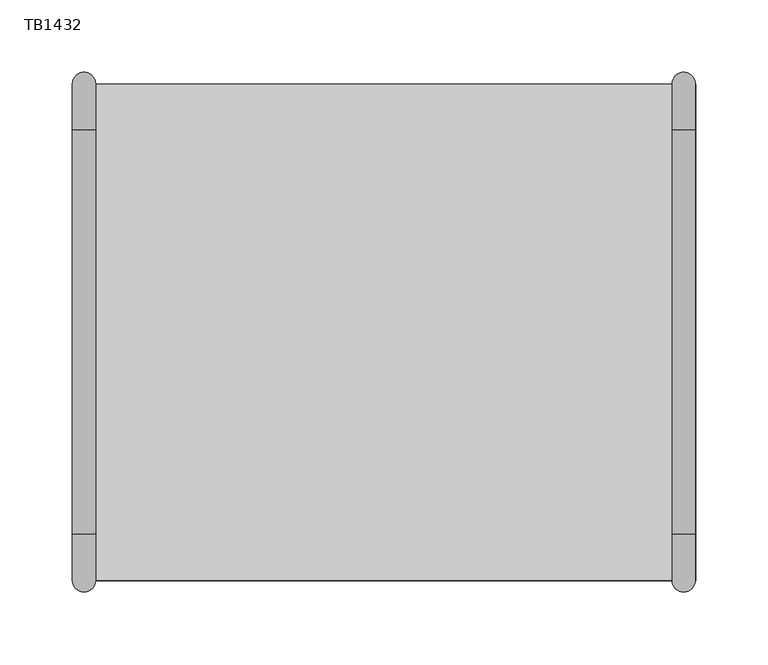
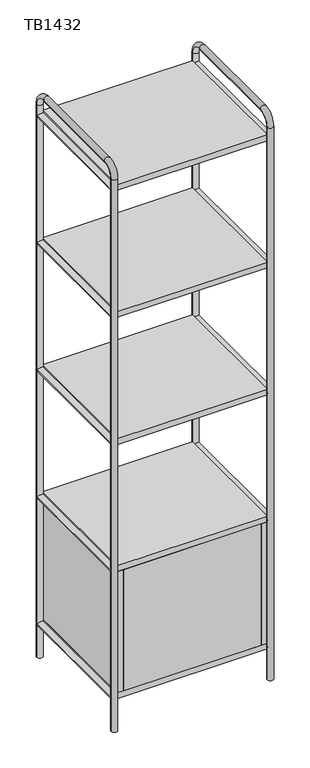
"""IFC4 building model written with IfcOpenShell, lengths in millimetres: furniture geometry, Tubbe Bookcase_4x1 : TB1432."""

from ifc_helpers import new_model, si_unit, point, frame, frame_2d, origin, place, context, project, spatial, polyline, circle_curve, ellipse_curve, trimmed, segment, composite_curve, outline, extrude, source, transform, mapped, element, save
from ifc_brep_helpers import plane_surface, cylinder_surface, revolved_surface, advanced_brep


def tb1432_73eb9000(model_context):
    return source(origin(), model_context, "Body", "SolidModel", [
        advanced_brep(
        [(-215.2205547, 171.5, 0.0), (-199.2205547, 171.5, 0.0), (-215.2205547, 171.5, 1548.0), (-199.2205547, 171.5, 1548.0), (-199.2205547, 139.5, 1580.0), (-215.2205547, 139.5, 1580.0), (-215.2205547, -139.5, 1580.0), (-199.2205547, -139.5, 1580.0), (-199.2205547, -171.5, 1548.0), (-215.2205547, -171.5, 1548.0), (-215.2205547, -171.5, 0.0), (-199.2205547, -171.5, 0.0)],
        [
            (0, 1, circle_curve(frame((-207.2205547, 171.5, 0.0), z_axis=(0.0, 0.0, -1.0), x_axis=(1.0, 0.0, 0.0)), 8.0)),
            (1, 0, circle_curve(frame((-207.2205547, 171.5, 0.0), z_axis=(0.0, 0.0, -1.0), x_axis=(1.0, 0.0, 0.0)), 8.0)),
            (0, 2),
            (2, 3, circle_curve(frame((-207.2205547, 171.5, 1548.0), z_axis=(0.0, 0.0, -1.0), x_axis=(1.0, 0.0, 0.0)), 8.0)),
            (3, 1),
            (3, 2, circle_curve(frame((-207.2205547, 171.5, 1548.0), z_axis=(0.0, 0.0, -1.0), x_axis=(1.0, 0.0, 0.0)), 8.0)),
            (4, 5, circle_curve(frame((-207.2205547, 139.5, 1580.0), z_axis=(0.0, -1.0, 0.0), x_axis=(1.0, 0.0, 0.0)), 8.0)),
            (5, 6),
            (6, 7, circle_curve(frame((-207.2205547, -139.5, 1580.0), z_axis=(0.0, 1.0, 0.0), x_axis=(1.0, 0.0, 0.0)), 8.0)),
            (7, 4),
            (5, 4, circle_curve(frame((-207.2205547, 139.5, 1580.0), z_axis=(0.0, -1.0, 0.0), x_axis=(1.0, 0.0, 0.0)), 8.0)),
            (7, 6, circle_curve(frame((-207.2205547, -139.5, 1580.0), z_axis=(0.0, 1.0, 0.0), x_axis=(1.0, 0.0, 0.0)), 8.0)),
            (8, 7, circle_curve(frame((-199.2205547, -139.5, 1548.0), z_axis=(-1.0, 0.0, 0.0), x_axis=(0.0, 0.0, 1.0)), 32.0)),
            (6, 9, circle_curve(frame((-215.2205547, -139.5, 1548.0), z_axis=(1.0, 0.0, 0.0), x_axis=(0.0, 0.0, 1.0)), 32.0)),
            (9, 8, circle_curve(frame((-207.2205547, -171.5, 1548.0), z_axis=(0.0, 0.0, 1.0), x_axis=(1.0, 0.0, 0.0)), 8.0)),
            (8, 9, circle_curve(frame((-207.2205547, -171.5, 1548.0), z_axis=(0.0, 0.0, 1.0), x_axis=(1.0, 0.0, 0.0)), 8.0)),
            (10, 11, circle_curve(frame((-207.2205547, -171.5, 0.0), z_axis=(0.0, 0.0, -1.0), x_axis=(1.0, 0.0, 0.0)), 8.0)),
            (11, 10, circle_curve(frame((-207.2205547, -171.5, 0.0), z_axis=(0.0, 0.0, -1.0), x_axis=(1.0, 0.0, 0.0)), 8.0)),
            (9, 10),
            (11, 8),
            (4, 3, circle_curve(frame((-199.2205547, 139.5, 1548.0), z_axis=(-1.0, 0.0, 0.0), x_axis=(0.0, 1.0, 0.0)), 32.0)),
            (2, 5, circle_curve(frame((-215.2205547, 139.5, 1548.0), z_axis=(1.0, 0.0, 0.0), x_axis=(0.0, 1.0, 0.0)), 32.0)),
        ],
        [
            plane_surface(frame((-207.0, 171.5, 0.0), z_axis=(0.0, 0.0, -1.0), x_axis=(1.0, 0.0, 0.0))),
            cylinder_surface(frame((-207.2205547, 171.5, 0.0), z_axis=(0.0, 0.0, -1.0), x_axis=(1.0, 0.0, 0.0)), 8.0),
            cylinder_surface(frame((-207.2205547, 139.5, 1580.0), z_axis=(0.0, 1.0, 0.0), x_axis=(1.0, 0.0, 0.0)), 8.0),
            revolved_surface(trimmed(ellipse_curve(frame((-207.2205547, -139.5, 1580.0), z_axis=(0.0, 1.0, 0.0), x_axis=(1.0, 0.0, 0.0)), 8.0, 8.0), [point((-215.2205547, -139.5, 1580.0))], [point((-199.2205547, -139.5, 1580.0))], True, "CARTESIAN"), (-207.0, -139.5, 1548.0), (1.0, 0.0, 0.0)),
            revolved_surface(trimmed(ellipse_curve(frame((-207.2205547, -139.5, 1580.0), z_axis=(0.0, 1.0, 0.0), x_axis=(1.0, 0.0, 0.0)), 8.0, 8.0), [point((-199.2205547, -139.5, 1580.0))], [point((-215.2205547, -139.5, 1580.0))], True, "CARTESIAN"), (-207.0, -139.5, 1548.0), (1.0, 0.0, 0.0)),
            plane_surface(frame((-207.0, -171.5, 0.0), z_axis=(0.0, 0.0, -1.0), x_axis=(1.0, 0.0, 0.0))),
            cylinder_surface(frame((-207.2205547, -171.5, 1548.0), z_axis=(0.0, 0.0, 1.0), x_axis=(1.0, 0.0, 0.0)), 8.0),
            revolved_surface(trimmed(ellipse_curve(frame((-207.2205547, 171.5, 1548.0), z_axis=(0.0, 0.0, -1.0), x_axis=(1.0, 0.0, 0.0)), 8.0, 8.0), [point((-215.2205547, 171.5, 1548.0))], [point((-199.2205547, 171.5, 1548.0))], True, "CARTESIAN"), (-207.0, 139.5, 1548.0), (1.0, 0.0, 0.0)),
            revolved_surface(trimmed(ellipse_curve(frame((-207.2205547, 171.5, 1548.0), z_axis=(0.0, 0.0, -1.0), x_axis=(1.0, 0.0, 0.0)), 8.0, 8.0), [point((-199.2205547, 171.5, 1548.0))], [point((-215.2205547, 171.5, 1548.0))], True, "CARTESIAN"), (-207.0, 139.5, 1548.0), (1.0, 0.0, 0.0)),
        ],
        [
            (0, [[1, 2]]),
            (1, [[-1, 3, 4, 5]]),
            (1, [[-2, -5, 6, -3]]),
            (2, [[7, 8, 9, 10]]),
            (2, [[11, -10, 12, -8]]),
            (3, [[13, -9, 14, 15]]),
            (4, [[-14, -12, -13, 16]]),
            (5, [[17, 18]]),
            (6, [[-15, 19, -18, 20]]),
            (6, [[-16, -20, -17, -19]]),
            (7, [[21, -4, 22, -7]]),
            (8, [[-22, -6, -21, -11]]),
        ],
    ),
        extrude(outline(composite_curve([segment(trimmed(circle_curve(frame_2d((806.0, -207.0)), 8.0), [point((806.0, -215.0))], [point((806.0, -199.0))], False, "CARTESIAN"), True, "CONTINUOUS"), segment(trimmed(circle_curve(frame_2d((806.0, -207.0)), 8.0), [point((806.0, -199.0))], [point((806.0, -215.0))], False, "CARTESIAN"), True, "CONTINUOUS")], self_intersect=False)), frame((0.0, -171.5, 0.0), z_axis=(0.0, 1.0, 0.0), x_axis=(0.0, 0.0, 1.0)), (0.0, 0.0, 1.0), 343.0),
        extrude(outline(composite_curve([segment(trimmed(circle_curve(frame_2d((450.0, -207.0)), 8.0), [point((450.0, -215.0))], [point((450.0, -199.0))], False, "CARTESIAN"), True, "CONTINUOUS"), segment(trimmed(circle_curve(frame_2d((450.0, -207.0)), 8.0), [point((450.0, -199.0))], [point((450.0, -215.0))], False, "CARTESIAN"), True, "CONTINUOUS")], self_intersect=False)), frame((0.0, -171.5, 0.0), z_axis=(0.0, 1.0, 0.0), x_axis=(0.0, 0.0, 1.0)), (0.0, 0.0, 1.0), 343.0),
        extrude(outline(composite_curve([segment(trimmed(circle_curve(frame_2d((94.0, -207.0)), 8.0), [point((94.0, -215.0))], [point((94.0, -199.0))], False, "CARTESIAN"), True, "CONTINUOUS"), segment(trimmed(circle_curve(frame_2d((94.0, -207.0)), 8.0), [point((94.0, -199.0))], [point((94.0, -215.0))], False, "CARTESIAN"), True, "CONTINUOUS")], self_intersect=False)), frame((0.0, -171.5, 0.0), z_axis=(0.0, 1.0, 0.0), x_axis=(0.0, 0.0, 1.0)), (0.0, 0.0, 1.0), 343.0),
        extrude(outline(composite_curve([segment(trimmed(circle_curve(frame_2d((1518.0, -207.0)), 8.0), [point((1518.0, -215.0))], [point((1518.0, -199.0))], False, "CARTESIAN"), True, "CONTINUOUS"), segment(trimmed(circle_curve(frame_2d((1518.0, -207.0)), 8.0), [point((1518.0, -199.0))], [point((1518.0, -215.0))], False, "CARTESIAN"), True, "CONTINUOUS")], self_intersect=False)), frame((0.0, -171.5, 0.0), z_axis=(0.0, 1.0, 0.0), x_axis=(0.0, 0.0, 1.0)), (0.0, 0.0, 1.0), 343.0),
        extrude(outline(composite_curve([segment(trimmed(circle_curve(frame_2d((1162.0, -207.0)), 8.0), [point((1162.0, -215.0))], [point((1162.0, -199.0))], False, "CARTESIAN"), True, "CONTINUOUS"), segment(trimmed(circle_curve(frame_2d((1162.0, -207.0)), 8.0), [point((1162.0, -199.0))], [point((1162.0, -215.0))], False, "CARTESIAN"), True, "CONTINUOUS")], self_intersect=False)), frame((0.0, -171.5, 0.0), z_axis=(0.0, 1.0, 0.0), x_axis=(0.0, 0.0, 1.0)), (0.0, 0.0, 1.0), 343.0),
        extrude(outline(polyline([(183.0, -171.5), (-183.0, -171.5), (-183.0, -155.5), (183.0, -155.5), (183.0, -171.5)])), frame((0.0, 0.0, 102.0), z_axis=(0.0, 0.0, 1.0), x_axis=(1.0, 0.0, 0.0)), (0.0, 0.0, 1.0), 340.0),
        extrude(outline(polyline([(183.0, 155.5), (-183.0, 155.5), (-183.0, 171.5), (183.0, 171.5), (183.0, 155.5)])), frame((0.0, 0.0, 102.0), z_axis=(0.0, 0.0, 1.0), x_axis=(1.0, 0.0, 0.0)), (0.0, 0.0, 1.0), 340.0),
        extrude(outline(polyline([(199.0, 171.5), (199.0, -171.5), (183.0, -171.5), (183.0, 171.5), (199.0, 171.5)])), frame((0.0, 0.0, 102.0), z_axis=(0.0, 0.0, 1.0), x_axis=(1.0, 0.0, 0.0)), (0.0, 0.0, 1.0), 340.0),
        extrude(outline(polyline([(-183.0, 171.5), (-183.0, -171.5), (-199.0, -171.5), (-199.0, 171.5), (-183.0, 171.5)])), frame((0.0, 0.0, 102.0), z_axis=(0.0, 0.0, 1.0), x_axis=(1.0, 0.0, 0.0)), (0.0, 0.0, 1.0), 340.0),
        extrude(outline(polyline([(199.0, 171.5), (199.0, -171.5), (-199.0, -171.5), (-199.0, 171.5), (199.0, 171.5)])), frame((0.0, 0.0, 1510.0), z_axis=(0.0, 0.0, 1.0), x_axis=(1.0, 0.0, 0.0)), (0.0, 0.0, 1.0), 16.0),
        extrude(outline(polyline([(199.0, 171.5), (199.0, -171.5), (-199.0, -171.5), (-199.0, 171.5), (199.0, 171.5)])), frame((0.0, 0.0, 1154.0), z_axis=(0.0, 0.0, 1.0), x_axis=(1.0, 0.0, 0.0)), (0.0, 0.0, 1.0), 16.0),
        extrude(outline(polyline([(199.0, 171.5), (199.0, -171.5), (-199.0, -171.5), (-199.0, 171.5), (199.0, 171.5)])), frame((0.0, 0.0, 798.0), z_axis=(0.0, 0.0, 1.0), x_axis=(1.0, 0.0, 0.0)), (0.0, 0.0, 1.0), 16.0),
        extrude(outline(polyline([(199.0, 171.5), (199.0, -171.5), (-199.0, -171.5), (-199.0, 171.5), (199.0, 171.5)])), frame((0.0, 0.0, 442.0), z_axis=(0.0, 0.0, 1.0), x_axis=(1.0, 0.0, 0.0)), (0.0, 0.0, 1.0), 16.0),
        extrude(outline(polyline([(199.0, 171.5), (199.0, -171.5), (-199.0, -171.5), (-199.0, 171.5), (199.0, 171.5)])), frame((0.0, 0.0, 86.0), z_axis=(0.0, 0.0, 1.0), x_axis=(1.0, 0.0, 0.0)), (0.0, 0.0, 1.0), 16.0),
        advanced_brep(
        [(198.7794453, 171.5, 0.0), (214.7794453, 171.5, 0.0), (198.7794453, 171.5, 1548.0), (214.7794453, 171.5, 1548.0), (214.7794453, 139.5, 1580.0), (198.7794453, 139.5, 1580.0), (198.7794453, -139.5, 1580.0), (214.7794453, -139.5, 1580.0), (214.7794453, -171.5, 1548.0), (198.7794453, -171.5, 1548.0), (198.7794453, -171.5, 0.0), (214.7794453, -171.5, 0.0)],
        [
            (0, 1, circle_curve(frame((206.7794453, 171.5, 0.0), z_axis=(0.0, 0.0, -1.0), x_axis=(1.0, 0.0, 0.0)), 8.0)),
            (1, 0, circle_curve(frame((206.7794453, 171.5, 0.0), z_axis=(0.0, 0.0, -1.0), x_axis=(1.0, 0.0, 0.0)), 8.0)),
            (0, 2),
            (2, 3, circle_curve(frame((206.7794453, 171.5, 1548.0), z_axis=(0.0, 0.0, -1.0), x_axis=(1.0, 0.0, 0.0)), 8.0)),
            (3, 1),
            (3, 2, circle_curve(frame((206.7794453, 171.5, 1548.0), z_axis=(0.0, 0.0, -1.0), x_axis=(1.0, 0.0, 0.0)), 8.0)),
            (4, 5, circle_curve(frame((206.7794453, 139.5, 1580.0), z_axis=(0.0, -1.0, 0.0), x_axis=(1.0, 0.0, 0.0)), 8.0)),
            (5, 6),
            (6, 7, circle_curve(frame((206.7794453, -139.5, 1580.0), z_axis=(0.0, 1.0, 0.0), x_axis=(1.0, 0.0, 0.0)), 8.0)),
            (7, 4),
            (5, 4, circle_curve(frame((206.7794453, 139.5, 1580.0), z_axis=(0.0, -1.0, 0.0), x_axis=(1.0, 0.0, 0.0)), 8.0)),
            (7, 6, circle_curve(frame((206.7794453, -139.5, 1580.0), z_axis=(0.0, 1.0, 0.0), x_axis=(1.0, 0.0, 0.0)), 8.0)),
            (8, 7, circle_curve(frame((214.7794453, -139.5, 1548.0), z_axis=(-1.0, 0.0, 0.0), x_axis=(0.0, 0.0, 1.0)), 32.0)),
            (6, 9, circle_curve(frame((198.7794453, -139.5, 1548.0), z_axis=(1.0, 0.0, 0.0), x_axis=(0.0, 0.0, 1.0)), 32.0)),
            (9, 8, circle_curve(frame((206.7794453, -171.5, 1548.0), z_axis=(0.0, 0.0, 1.0), x_axis=(1.0, 0.0, 0.0)), 8.0)),
            (8, 9, circle_curve(frame((206.7794453, -171.5, 1548.0), z_axis=(0.0, 0.0, 1.0), x_axis=(1.0, 0.0, 0.0)), 8.0)),
            (10, 11, circle_curve(frame((206.7794453, -171.5, 0.0), z_axis=(0.0, 0.0, -1.0), x_axis=(1.0, 0.0, 0.0)), 8.0)),
            (11, 10, circle_curve(frame((206.7794453, -171.5, 0.0), z_axis=(0.0, 0.0, -1.0), x_axis=(1.0, 0.0, 0.0)), 8.0)),
            (9, 10),
            (11, 8),
            (4, 3, circle_curve(frame((214.7794453, 139.5, 1548.0), z_axis=(-1.0, 0.0, 0.0), x_axis=(0.0, 1.0, 0.0)), 32.0)),
            (2, 5, circle_curve(frame((198.7794453, 139.5, 1548.0), z_axis=(1.0, 0.0, 0.0), x_axis=(0.0, 1.0, 0.0)), 32.0)),
        ],
        [
            plane_surface(frame((207.0, 171.5, 0.0), z_axis=(0.0, 0.0, -1.0), x_axis=(1.0, 0.0, 0.0))),
            cylinder_surface(frame((206.7794453, 171.5, 0.0), z_axis=(0.0, 0.0, -1.0), x_axis=(1.0, 0.0, 0.0)), 8.0),
            cylinder_surface(frame((206.7794453, 139.5, 1580.0), z_axis=(0.0, 1.0, 0.0), x_axis=(1.0, 0.0, 0.0)), 8.0),
            revolved_surface(trimmed(ellipse_curve(frame((206.7794453, -139.5, 1580.0), z_axis=(0.0, 1.0, 0.0), x_axis=(1.0, 0.0, 0.0)), 8.0, 8.0), [point((198.7794453, -139.5, 1580.0))], [point((214.7794453, -139.5, 1580.0))], True, "CARTESIAN"), (207.0, -139.5, 1548.0), (1.0, 0.0, 0.0)),
            revolved_surface(trimmed(ellipse_curve(frame((206.7794453, -139.5, 1580.0), z_axis=(0.0, 1.0, 0.0), x_axis=(1.0, 0.0, 0.0)), 8.0, 8.0), [point((214.7794453, -139.5, 1580.0))], [point((198.7794453, -139.5, 1580.0))], True, "CARTESIAN"), (207.0, -139.5, 1548.0), (1.0, 0.0, 0.0)),
            plane_surface(frame((207.0, -171.5, 0.0), z_axis=(0.0, 0.0, -1.0), x_axis=(1.0, 0.0, 0.0))),
            cylinder_surface(frame((206.7794453, -171.5, 1548.0), z_axis=(0.0, 0.0, 1.0), x_axis=(1.0, 0.0, 0.0)), 8.0),
            revolved_surface(trimmed(ellipse_curve(frame((206.7794453, 171.5, 1548.0), z_axis=(0.0, 0.0, -1.0), x_axis=(1.0, 0.0, 0.0)), 8.0, 8.0), [point((198.7794453, 171.5, 1548.0))], [point((214.7794453, 171.5, 1548.0))], True, "CARTESIAN"), (207.0, 139.5, 1548.0), (1.0, 0.0, 0.0)),
            revolved_surface(trimmed(ellipse_curve(frame((206.7794453, 171.5, 1548.0), z_axis=(0.0, 0.0, -1.0), x_axis=(1.0, 0.0, 0.0)), 8.0, 8.0), [point((214.7794453, 171.5, 1548.0))], [point((198.7794453, 171.5, 1548.0))], True, "CARTESIAN"), (207.0, 139.5, 1548.0), (1.0, 0.0, 0.0)),
        ],
        [
            (0, [[1, 2]]),
            (1, [[-1, 3, 4, 5]]),
            (1, [[-2, -5, 6, -3]]),
            (2, [[7, 8, 9, 10]]),
            (2, [[11, -10, 12, -8]]),
            (3, [[13, -9, 14, 15]]),
            (4, [[-14, -12, -13, 16]]),
            (5, [[17, 18]]),
            (6, [[-15, 19, -18, 20]]),
            (6, [[-16, -20, -17, -19]]),
            (7, [[21, -4, 22, -7]]),
            (8, [[-22, -6, -21, -11]]),
        ],
    ),
        extrude(outline(composite_curve([segment(trimmed(circle_curve(frame_2d((806.0, 207.0)), 8.0), [point((806.0, 199.0))], [point((806.0, 215.0))], False, "CARTESIAN"), True, "CONTINUOUS"), segment(trimmed(circle_curve(frame_2d((806.0, 207.0)), 8.0), [point((806.0, 215.0))], [point((806.0, 199.0))], False, "CARTESIAN"), True, "CONTINUOUS")], self_intersect=False)), frame((0.0, -171.5, 0.0), z_axis=(0.0, 1.0, 0.0), x_axis=(0.0, 0.0, 1.0)), (0.0, 0.0, 1.0), 343.0),
        extrude(outline(composite_curve([segment(trimmed(circle_curve(frame_2d((450.0, 207.0)), 8.0), [point((450.0, 199.0))], [point((450.0, 215.0))], False, "CARTESIAN"), True, "CONTINUOUS"), segment(trimmed(circle_curve(frame_2d((450.0, 207.0)), 8.0), [point((450.0, 215.0))], [point((450.0, 199.0))], False, "CARTESIAN"), True, "CONTINUOUS")], self_intersect=False)), frame((0.0, -171.5, 0.0), z_axis=(0.0, 1.0, 0.0), x_axis=(0.0, 0.0, 1.0)), (0.0, 0.0, 1.0), 343.0),
        extrude(outline(composite_curve([segment(trimmed(circle_curve(frame_2d((94.0, 207.0)), 8.0), [point((94.0, 199.0))], [point((94.0, 215.0))], False, "CARTESIAN"), True, "CONTINUOUS"), segment(trimmed(circle_curve(frame_2d((94.0, 207.0)), 8.0), [point((94.0, 215.0))], [point((94.0, 199.0))], False, "CARTESIAN"), True, "CONTINUOUS")], self_intersect=False)), frame((0.0, -171.5, 0.0), z_axis=(0.0, 1.0, 0.0), x_axis=(0.0, 0.0, 1.0)), (0.0, 0.0, 1.0), 343.0),
        extrude(outline(composite_curve([segment(trimmed(circle_curve(frame_2d((1518.0, 207.0)), 8.0), [point((1518.0, 199.0))], [point((1518.0, 215.0))], False, "CARTESIAN"), True, "CONTINUOUS"), segment(trimmed(circle_curve(frame_2d((1518.0, 207.0)), 8.0), [point((1518.0, 215.0))], [point((1518.0, 199.0))], False, "CARTESIAN"), True, "CONTINUOUS")], self_intersect=False)), frame((0.0, -171.5, 0.0), z_axis=(0.0, 1.0, 0.0), x_axis=(0.0, 0.0, 1.0)), (0.0, 0.0, 1.0), 343.0),
        extrude(outline(composite_curve([segment(trimmed(circle_curve(frame_2d((1162.0, 207.0)), 8.0), [point((1162.0, 199.0))], [point((1162.0, 215.0))], False, "CARTESIAN"), True, "CONTINUOUS"), segment(trimmed(circle_curve(frame_2d((1162.0, 207.0)), 8.0), [point((1162.0, 215.0))], [point((1162.0, 199.0))], False, "CARTESIAN"), True, "CONTINUOUS")], self_intersect=False)), frame((0.0, -171.5, 0.0), z_axis=(0.0, 1.0, 0.0), x_axis=(0.0, 0.0, 1.0)), (0.0, 0.0, 1.0), 343.0),
    ])


if __name__ == "__main__":
    model = new_model("IFC4")
    model_context = context("Model", 3, world=origin())
    ifc_project = project(units=[si_unit("LENGTHUNIT", "METRE", prefix="MILLI")], contexts=[model_context])
    site = spatial("IfcSite", under=ifc_project)
    building = spatial("IfcBuilding", under=site)
    placement = place(None, origin())
    tb1432_shape = tb1432_73eb9000(model_context)
    element("IfcFurniture", 1, ObjectType="Tubbe Bookcase_4x1 : TB1432", at=placement, inside=building, context=model_context, shape_type="MappedRepresentation", body=[
        mapped(tb1432_shape, transform((0.0, 0.0, 0.0), x_axis=(1.0, 0.0, 0.0), y_axis=(0.0, 1.0, 0.0), z_axis=(0.0, 0.0, 1.0))),
    ])
    save(model, "model.ifc")
